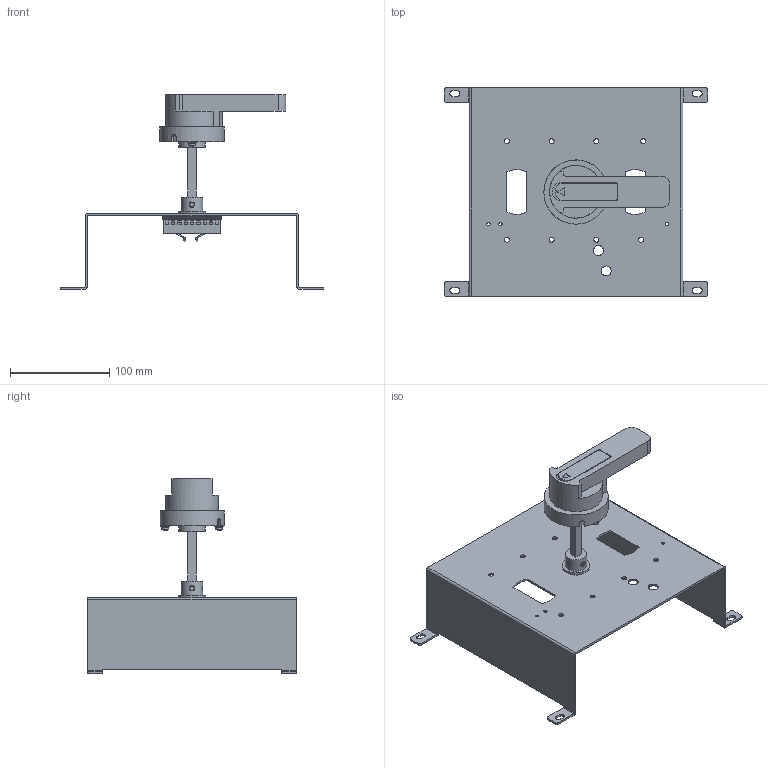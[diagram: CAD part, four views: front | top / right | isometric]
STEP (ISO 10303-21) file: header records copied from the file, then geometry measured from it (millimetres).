
FILE_DESCRIPTION(/* description */ (''),/* implementation_level */ '2;1');
FILE_NAME(/* name */ 'model1.stp',/* time_stamp */ '2025-02-14T10:25:51+08:00',/* author */ (''),/* organization */ (''),/* preprocessor_version */ 'ST-DEVELOPER v11',/* originating_system */ 'SIEMENS UGS NX 6.0',/* authorisation */ '');
FILE_SCHEMA (('CONFIG_CONTROL_DESIGN'));
Products named in the file (1): pcD8FEnf5n
Bounding box: 264.5 x 210 x 195.5 mm (x, y, z)
Volume: 266342.8 mm3; surface area: 221578.7 mm2
Topology: 12 solids, 19 shells, 993 faces, 2630 edges, 1695 vertices
Faces by surface type: plane 478, cylinder 315, bspline 152, cone 27, torus 19, sphere 2
Full cylindrical faces by diameter (mm): 2 x2, 3.241 x2, 3.242 x2, 3.3 x3, 3.545 x2, 3.6 x2, 4 x5, 4.2 x4, 4.3 x2, 5 x8, 6.78 x2, 6.8 x5, 8 x1, 9 x2, 10 x2, 21.8 x2, 22 x1, 24 x2, 24.489 x1, 26.5 x1, 27.6 x2, 64.6 x1
Entity records: 46770 total; most frequent: CARTESIAN_POINT 23331, ORIENTED_EDGE 4990, DIRECTION 4521, EDGE_CURVE 2495, VERTEX_POINT 1647, AXIS2_PLACEMENT_3D 1596, LINE 1329, VECTOR 1329
